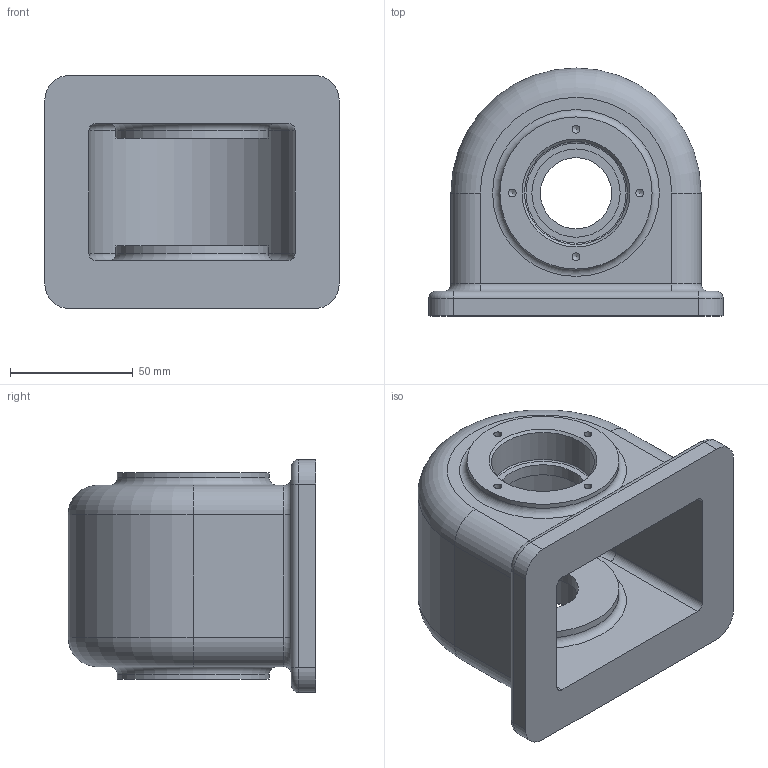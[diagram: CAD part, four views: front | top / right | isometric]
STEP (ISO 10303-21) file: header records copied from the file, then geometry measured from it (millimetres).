
FILE_DESCRIPTION(/* description */ (''),/* implementation_level */ '2;1');
FILE_NAME(/* name */ 'C:\Users\yeunjin\Desktop\박예은\박예은-본체.stp',/* time_stamp */ '2018-07-16T18:22:42+09:00',/* author */ ('yeunjin'),/* organization */ (''),/* preprocessor_version */ 'ST-DEVELOPER v16.13',/* originating_system */ 'Autodesk Inventor 2018',/* authorisation */ '');
FILE_SCHEMA (('AUTOMOTIVE_DESIGN { 1 0 10303 214 3 1 1 }'));
Length unit declared in the file: millimetre
Products named in the file (1): 박예은
Bounding box: 120 x 101 x 95 mm (x, y, z)
Volume: 337008.7 mm3; surface area: 76805.4 mm2
Topology: 1 solids, 1 shells, 86 faces, 188 edges, 112 vertices
Faces by surface type: cylinder 38, plane 20, torus 18, cone 10
Full cylindrical faces by diameter (mm): 3.242 x8, 29 x1, 35 x1, 36 x1, 42 x1, 62 x4
Entity records: 2163 total; most frequent: DIRECTION 418, CARTESIAN_POINT 339, ORIENTED_EDGE 296, AXIS2_PLACEMENT_3D 183, EDGE_CURVE 148, EDGE_LOOP 130, VERTEX_POINT 104, CIRCLE 96
